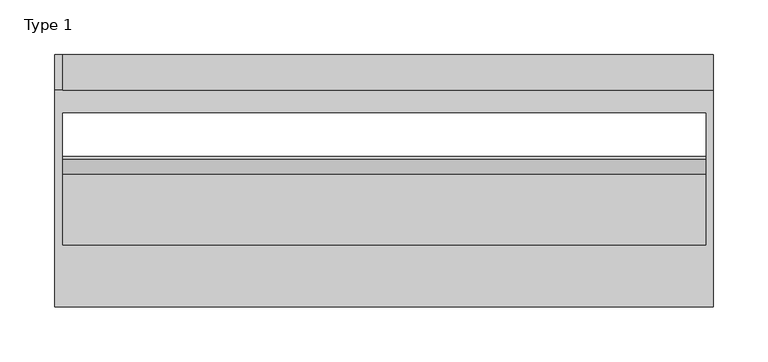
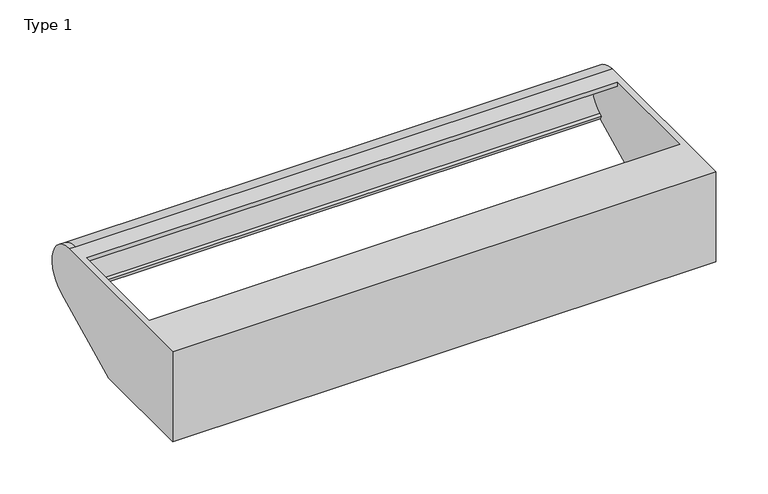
"""IFC4 building model written with IfcOpenShell, lengths in millimetres: light fixture geometry, BIMHealth-Lighting-Bed_Luminaire-LOD2A-v1 : Type 1."""

from ifc_helpers import new_model, si_unit, frame, origin, place, context, project, spatial, polyline, circle_curve, source, transform, mapped, element, save
from ifc_brep_helpers import plane_surface, cylinder_surface, revolved_surface, advanced_brep


def type_1_dfacdb5c(model_context):
    return source(origin(), model_context, "Body", "AdvancedBrep", [
        advanced_brep(
        [(425.0, 248.125, 1905.0), (425.0, 50.0, 1905.0), (425.0, 50.0, 1800.0), (425.0, 172.3781768, 1800.0), (425.0, 262.2452345, 1843.8018724), (-167.8357008, 248.125, 1905.0), (-167.8357008, 262.2452345, 1843.8018724), (-175.0, 50.0, 1905.0), (-175.0, 248.125, 1905.0), (-175.0, 262.2452345, 1843.8018724), (-175.0, 172.3781768, 1800.0), (-175.0, 50.0, 1800.0), (-167.8357008, 226.8386569, 1905.0), (-167.8357008, 106.8386569, 1905.0), (-167.8357008, 106.8386569, 1900.0), (-167.8357008, 80.0, 1900.0), (-167.8357008, 80.0, 1805.0), (-167.8357008, 171.2245276, 1805.0), (-167.8357008, 185.0464817, 1811.7369232), (-167.8357008, 187.2371568, 1807.2423773), (-167.8357008, 259.1498908, 1842.2931788), (-167.8357008, 256.9592157, 1846.7877247), (-167.8357008, 260.0545594, 1848.2964183), (-167.8357008, 248.125, 1900.0), (-167.8357008, 226.8386569, 1900.0), (418.2181406, 226.8386569, 1905.0), (418.2181406, 106.8386569, 1905.0), (418.2181406, 50.0, 1800.0), (418.2181406, 187.2371568, 1807.2423773), (418.2181406, 259.1498908, 1842.2931788), (418.2181406, 226.8386569, 1900.0), (418.2181406, 248.125, 1900.0), (418.2181406, 260.0545594, 1848.2964183), (418.2181406, 256.9592157, 1846.7877247), (418.2181406, 185.0464817, 1811.7369232), (418.2181406, 171.2245276, 1805.0), (418.2181406, 80.0, 1805.0), (418.2181406, 80.0, 1900.0), (418.2181406, 106.8386569, 1900.0)],
        [
            (0, 1),
            (1, 2),
            (2, 3),
            (3, 4),
            (4, 0, circle_curve(frame((425.0, 248.125, 1872.7719564), z_axis=(1.0, 0.0, 0.0), x_axis=(0.0, -1.0, 0.0)), 32.2280436)),
            (5, 0),
            (4, 6),
            (6, 5, circle_curve(frame((-167.8357008, 248.125, 1872.7719564), z_axis=(1.0, 0.0, 0.0), x_axis=(0.0, -1.0, 0.0)), 32.2280436)),
            (7, 8),
            (8, 9, circle_curve(frame((-175.0, 248.125, 1872.7719564), z_axis=(-1.0, 0.0, 0.0), x_axis=(0.0, -1.0, 0.0)), 32.2280436)),
            (9, 10),
            (10, 11),
            (11, 7),
            (12, 13),
            (13, 14),
            (14, 15),
            (15, 16),
            (16, 17),
            (17, 18),
            (18, 19),
            (19, 20),
            (20, 21),
            (21, 22),
            (22, 23, circle_curve(frame((-167.8357008, 248.125, 1872.7719564), z_axis=(1.0, 0.0, 0.0), x_axis=(0.0, -1.0, 0.0)), 27.2280436)),
            (23, 24),
            (24, 12),
            (5, 8),
            (7, 1),
            (12, 25),
            (25, 26),
            (26, 13),
            (11, 27),
            (27, 2),
            (10, 3),
            (9, 6),
            (19, 28),
            (28, 29),
            (29, 20),
            (24, 30),
            (30, 25),
            (23, 31),
            (31, 30),
            (22, 32),
            (32, 31, circle_curve(frame((418.2181406, 248.125, 1872.7719564), z_axis=(1.0, 0.0, 0.0), x_axis=(0.0, -1.0, 0.0)), 27.2280436)),
            (21, 33),
            (33, 32),
            (29, 33),
            (18, 34),
            (34, 28),
            (17, 35),
            (35, 34),
            (16, 36),
            (36, 35),
            (15, 37),
            (37, 36),
            (14, 38),
            (38, 37),
            (26, 38),
        ],
        [
            plane_surface(frame((425.0, 75.0, 1905.0), z_axis=(1.0, 0.0, 0.0), x_axis=(0.0, -1.0, 0.0))),
            cylinder_surface(frame((-175.0, 248.125, 1872.7719564), z_axis=(1.0, 0.0, 0.0), x_axis=(0.0, -1.0, 0.0)), 32.2280436),
            plane_surface(frame((-175.0, 248.125, 1905.0), z_axis=(-1.0, 0.0, 0.0), x_axis=(0.0, 1.0, 0.0))),
            plane_surface(frame((-167.8357008, 248.125, 1905.0), z_axis=(1.0, 0.0, 0.0), x_axis=(0.0, -1.0, 0.0))),
            plane_surface(frame((-175.0, 50.0, 1905.0), z_axis=(0.0, 0.0, 1.0), x_axis=(1.0, 0.0, 0.0))),
            plane_surface(frame((-175.0, 50.0, 1800.0), z_axis=(0.0, -1.0, 0.0), x_axis=(1.0, 0.0, 0.0))),
            plane_surface(frame((-175.0, 172.3781768, 1800.0), z_axis=(0.0, 0.0, -1.0), x_axis=(1.0, 0.0, 0.0))),
            plane_surface(frame((-175.0, 262.2452345, 1843.8018724), z_axis=(0.0, 0.4381350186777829, -0.8989091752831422), x_axis=(1.0, 0.0, 0.0))),
            cylinder_surface(frame((-167.8357008, 248.125, 1872.7719564), z_axis=(-1.0, 0.0, 0.0), x_axis=(0.0, -1.0, 0.0)), 32.2280436),
            plane_surface(frame((425.0, 226.8386569, 1905.0), z_axis=(0.0, -1.0, 0.0), x_axis=(-1.0, 0.0, 0.0))),
            plane_surface(frame((425.0, 226.8386569, 1900.0), z_axis=(0.0, 0.0, -1.0), x_axis=(-1.0, 0.0, 0.0))),
            revolved_surface(polyline([(-167.8357008, 220.8969564, 1872.7719564), (418.21814059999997, 220.8969564, 1872.7719564)]), (-175.0, 248.125, 1872.7719564), (-1.0, 0.0, 0.0)),
            plane_surface(frame((425.0, 260.0545594, 1848.2964183), z_axis=(0.0, -0.4381350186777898, 0.8989091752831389), x_axis=(-1.0, 0.0, 0.0))),
            plane_surface(frame((425.0, 256.9592157, 1846.7877247), z_axis=(0.0, -0.8989091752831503, -0.43813501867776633), x_axis=(-1.0, 0.0, 0.0))),
            plane_surface(frame((425.0, 187.2371568, 1807.2423773), z_axis=(0.0, 0.898909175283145, 0.43813501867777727), x_axis=(-1.0, 0.0, 0.0))),
            plane_surface(frame((425.0, 185.0464817, 1811.7369232), z_axis=(0.0, -0.43813501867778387, 0.8989091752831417), x_axis=(-1.0, 0.0, 0.0))),
            plane_surface(frame((425.0, 171.2245276, 1805.0), z_axis=(0.0, 0.0, 1.0), x_axis=(-1.0, 0.0, 0.0))),
            plane_surface(frame((425.0, 80.0, 1805.0), z_axis=(0.0, 1.0, 0.0), x_axis=(-1.0, 0.0, 0.0))),
            plane_surface(frame((425.0, 80.0, 1900.0), z_axis=(0.0, 0.0, -1.0), x_axis=(-1.0, 0.0, 0.0))),
            plane_surface(frame((425.0, 106.8386569, 1900.0), z_axis=(0.0, 1.0, 0.0), x_axis=(-1.0, 0.0, 0.0))),
            plane_surface(frame((418.2181406, 106.8386569, 1905.0), z_axis=(-1.0, 0.0, 0.0), x_axis=(0.0, 1.0, 0.0))),
        ],
        [
            (0, [[1, 2, 3, 4, 5]]),
            (1, [[6, -5, 7, 8]]),
            (2, [[9, 10, 11, 12, 13]]),
            (3, [[14, 15, 16, 17, 18, 19, 20, 21, 22, 23, 24, 25, 26]]),
            (4, [[27, -9, 28, -1, -6], [-14, 29, 30, 31]]),
            (5, [[-28, -13, 32, 33, -2]]),
            (6, [[-12, 34, -3, -33, -32]]),
            (7, [[35, -7, -4, -34, -11], [36, 37, 38, -21]]),
            (8, [[-10, -27, -8, -35]]),
            (9, [[-26, 39, 40, -29]]),
            (10, [[-25, 41, 42, -39]]),
            (11, [[-24, 43, 44, -41]]),
            (12, [[-23, 45, 46, -43]]),
            (13, [[-22, -38, 47, -45]]),
            (14, [[-20, 48, 49, -36]]),
            (15, [[-19, 50, 51, -48]]),
            (16, [[-18, 52, 53, -50]]),
            (17, [[-17, 54, 55, -52]]),
            (18, [[-16, 56, 57, -54]]),
            (19, [[-15, -31, 58, -56]]),
            (20, [[-30, -40, -42, -44, -46, -47, -37, -49, -51, -53, -55, -57, -58]]),
        ],
    ),
    ])


if __name__ == "__main__":
    model = new_model("IFC4")
    model_context = context("Model", 3, world=origin())
    ifc_project = project(units=[si_unit("LENGTHUNIT", "METRE", prefix="MILLI")], contexts=[model_context])
    site = spatial("IfcSite", under=ifc_project)
    building = spatial("IfcBuilding", under=site)
    placement = place(None, origin())
    type_1_shape = type_1_dfacdb5c(model_context)
    element("IfcLightFixture", 1, ObjectType="BIMHealth-Lighting-Bed_Luminaire-LOD2A-v1 : Type 1", at=placement, inside=building, context=model_context, shape_type="MappedRepresentation", body=[
        mapped(type_1_shape, transform((0.0, 0.0, 0.0), x_axis=(1.0, 0.0, 0.0), y_axis=(0.0, 1.0, 0.0), z_axis=(0.0, 0.0, 1.0))),
    ])
    save(model, "model.ifc")
